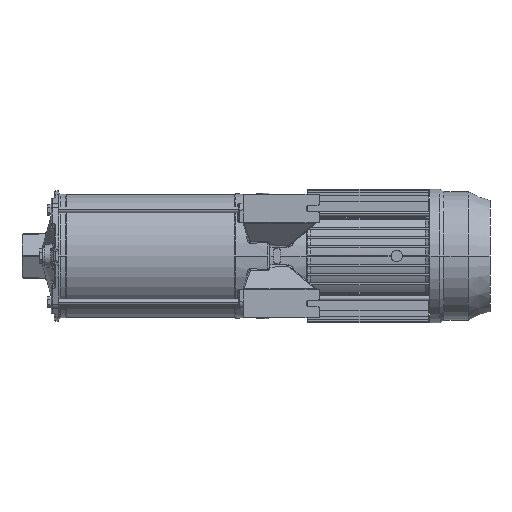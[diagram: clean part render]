
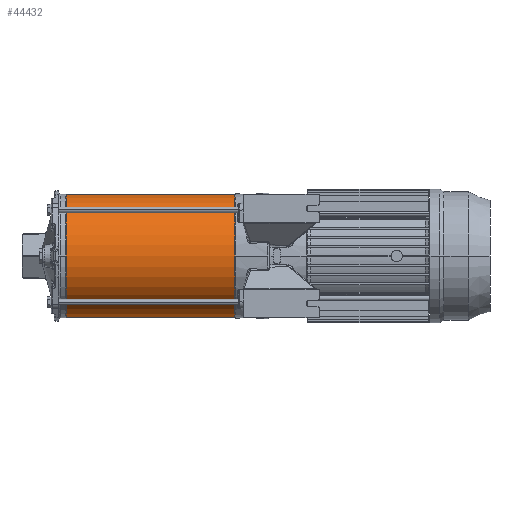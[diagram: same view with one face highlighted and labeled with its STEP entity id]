
A CAD part, front view. The second image highlights one B-rep face of the part: STEP entity #44432.
In plain terms, the highlighted cylindrical face has radius 64.5 mm (diameter 129 mm), a partial arc.
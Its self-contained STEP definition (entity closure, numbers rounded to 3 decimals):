
#44287=CARTESIAN_POINT('',(0.,0.,0.));
#44288=DIRECTION('',(0.,0.,1.));
#44289=DIRECTION('',(-1.,0.,0.));
#44290=AXIS2_PLACEMENT_3D('',#44287,#44288,#44289);
#44311=DIRECTION('',(0.,0.,1.));
#44312=VECTOR('',#44311,176.8);
#44313=CARTESIAN_POINT('',(64.5,0.,0.));
#44314=LINE('',#44313,#44312);
#44318=DIRECTION('',(0.,0.,1.));
#44319=VECTOR('',#44318,176.8);
#44320=CARTESIAN_POINT('',(-64.5,0.,0.));
#44321=LINE('',#44320,#44319);
#44333=CARTESIAN_POINT('',(0.,0.,176.8));
#44334=DIRECTION('',(0.,0.,1.));
#44335=DIRECTION('',(-1.,0.,0.));
#44336=AXIS2_PLACEMENT_3D('',#44333,#44334,#44335);
#44371=CARTESIAN_POINT('',(64.5,0.,0.));
#44372=CARTESIAN_POINT('',(-64.5,0.,0.));
#44373=VERTEX_POINT('',#44371);
#44374=VERTEX_POINT('',#44372);
#44379=CARTESIAN_POINT('',(64.5,0.,176.8));
#44380=CARTESIAN_POINT('',(-64.5,0.,176.8));
#44381=VERTEX_POINT('',#44379);
#44382=VERTEX_POINT('',#44380);
#44420=CARTESIAN_POINT('',(0.,0.,0.));
#44421=DIRECTION('',(0.,0.,1.));
#44422=DIRECTION('',(1.,0.,0.));
#44423=AXIS2_PLACEMENT_3D('',#44420,#44421,#44422);
#44424=CYLINDRICAL_SURFACE('',#44423,64.5);
#44425=ORIENTED_EDGE('',*,*,#44394,.F.);
#44426=ORIENTED_EDGE('',*,*,#44415,.T.);
#44428=ORIENTED_EDGE('',*,*,#44427,.T.);
#44429=ORIENTED_EDGE('',*,*,#44411,.F.);
#44430=EDGE_LOOP('',(#44425,#44426,#44428,#44429));
#44431=FACE_OUTER_BOUND('',#44430,.F.);
#44291=CIRCLE('',#44290,64.5);
#44337=CIRCLE('',#44336,64.5);
#44394=EDGE_CURVE('',#44374,#44373,#44291,.T.);
#44411=EDGE_CURVE('',#44373,#44381,#44314,.T.);
#44415=EDGE_CURVE('',#44374,#44382,#44321,.T.);
#44427=EDGE_CURVE('',#44382,#44381,#44337,.T.);
#44432=ADVANCED_FACE('',(#44431),#44424,.T.);
